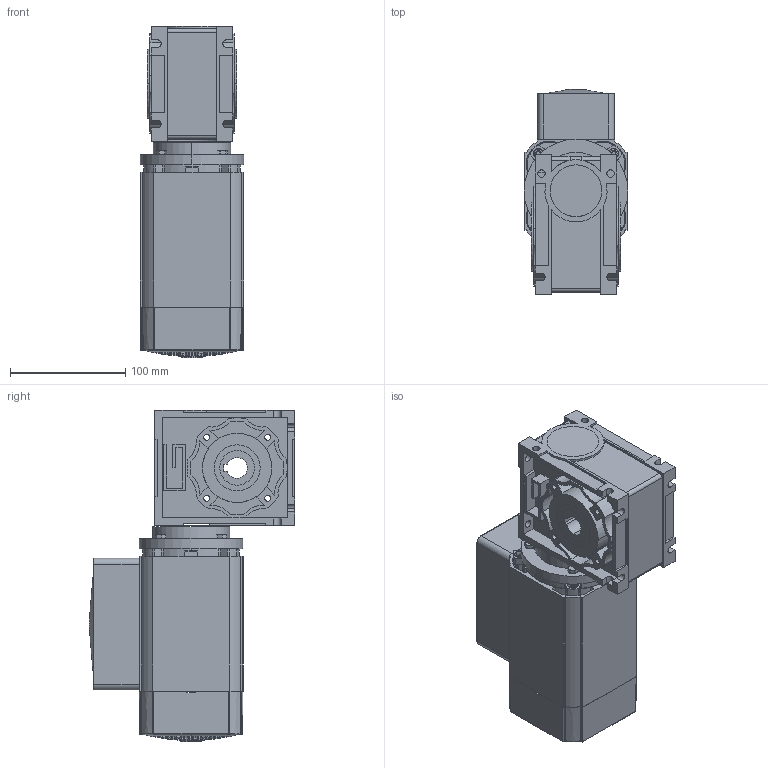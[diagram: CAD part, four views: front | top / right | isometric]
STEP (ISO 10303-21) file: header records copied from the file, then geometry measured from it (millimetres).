
FILE_DESCRIPTION (( 'STEP AP203' ), '1' );
FILE_NAME ('AC8040FC-RA4000T.STEP', '2008-06-30T20:31:11', ( 'eng-rjs' ), ( 'groschopp' ), 'SwSTEP 2.0', 'SolidWorks 2008', '' );
FILE_SCHEMA (( 'CONFIG_CONTROL_DESIGN' ));
Products named in the file (1): AC8040FC-RA4000T
Bounding box: 90.25 x 178.37 x 287.77 mm (x, y, z)
Surface area: 266478.5 mm2 (no closed solid volume)
Topology: 0 solids, 33 shells, 1157 faces, 3894 edges, 2684 vertices
Faces by surface type: plane 719, cylinder 292, cone 52, bspline 48, torus 42, sphere 4
Entity records: 45182 total; most frequent: CARTESIAN_POINT 11103, DIRECTION 7552, ORIENTED_EDGE 6429, EDGE_CURVE 3879, AXIS2_PLACEMENT_3D 2893, VERTEX_POINT 2684, CIRCLE 1783, VECTOR 1766
